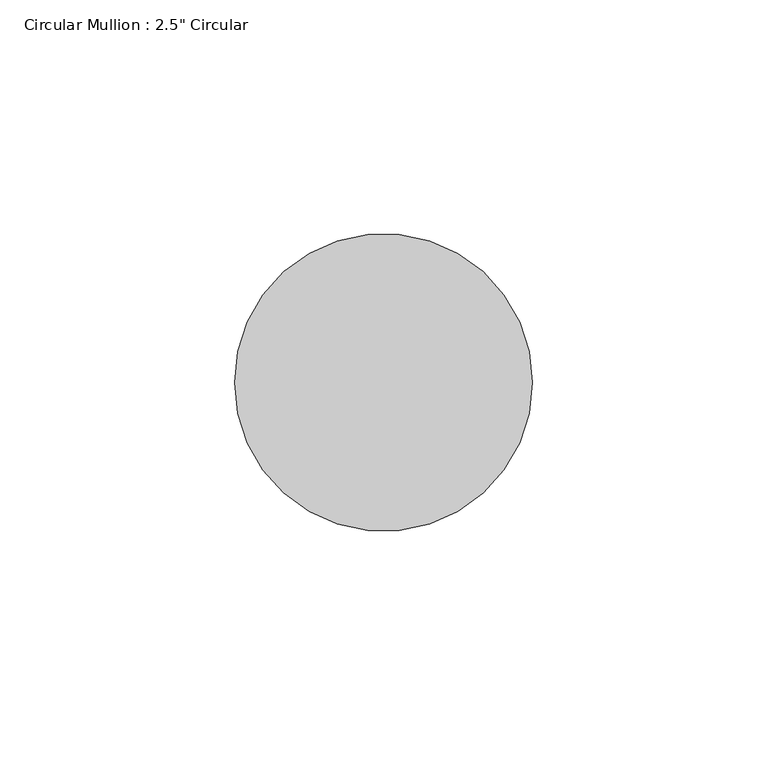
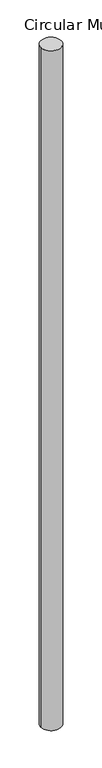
"""IFC4 building model written with IfcOpenShell, lengths in millimetres: member geometry."""

from ifc_helpers import new_model, si_unit, point, frame, origin, origin_2d, place, context, project, spatial, circle_curve, trimmed, segment, composite_curve, outline, extrude, source, transform, mapped, element, save


def member_4824b346(model_context):
    return source(origin(), model_context, "Body", "SweptSolid", [
        extrude(outline(composite_curve([segment(trimmed(circle_curve(origin_2d(), 31.75), [point((31.75, 0.0))], [point((-31.75, 0.0))], False, "CARTESIAN"), True, "CONTINUOUS"), segment(trimmed(circle_curve(origin_2d(), 31.75), [point((-31.75, 0.0))], [point((31.75, 0.0))], False, "CARTESIAN"), True, "CONTINUOUS")], self_intersect=False)), frame((0.0, 0.0, -2245.5067546), z_axis=(0.0, 0.0, 1.0), x_axis=(1.0, 0.0, 0.0)), (0.0, 0.0, 1.0), 2245.5067546),
    ])


if __name__ == "__main__":
    model = new_model("IFC4")
    model_context = context("Model", 3, world=origin())
    ifc_project = project(units=[si_unit("LENGTHUNIT", "METRE", prefix="MILLI")], contexts=[model_context])
    site = spatial("IfcSite", under=ifc_project)
    building = spatial("IfcBuilding", under=site)
    placement = place(None, origin())
    member_shape = member_4824b346(model_context)
    element("IfcMember", 1, ObjectType="Circular Mullion : 2.5\" Circular", at=placement, inside=building, context=model_context, shape_type="MappedRepresentation", body=[
        mapped(member_shape, transform((0.0, 0.0, 0.0), x_axis=(1.0, 0.0, 0.0), y_axis=(0.0, 1.0, 0.0), z_axis=(0.0, 0.0, 1.0))),
    ])
    save(model, "model.ifc")
